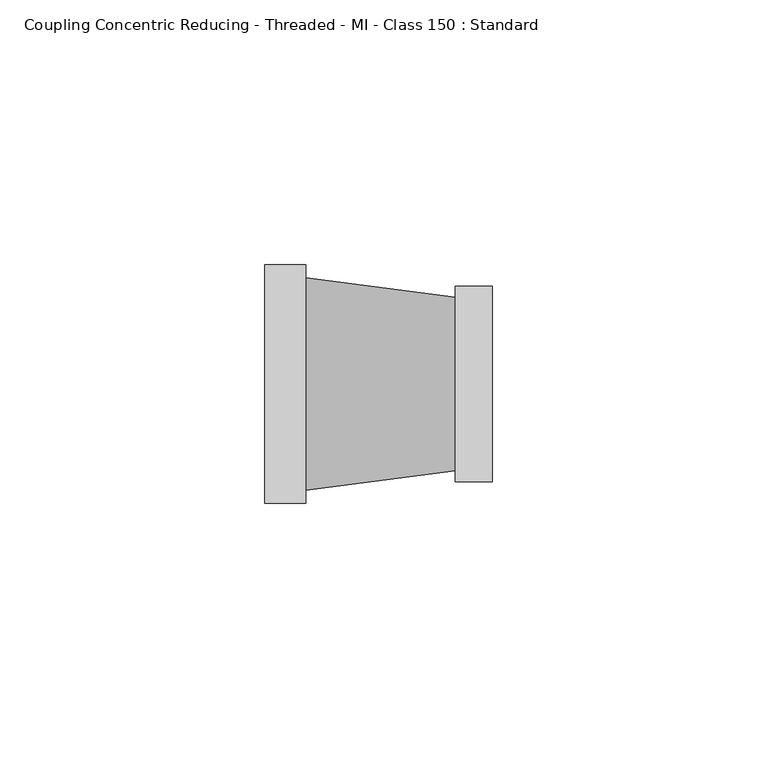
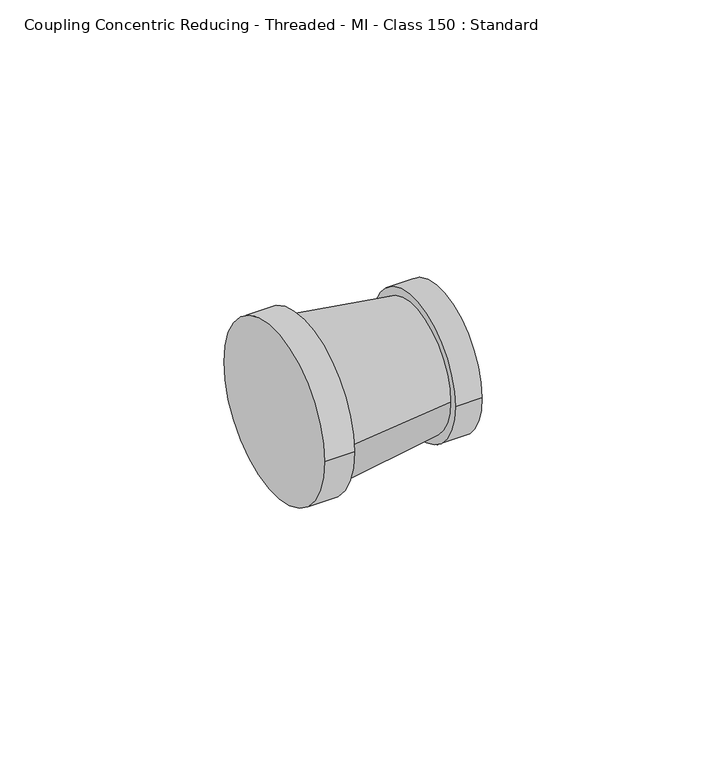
"""IFC4 building model written with IfcOpenShell, lengths in millimetres: pipe fitting geometry, Coupling Concentric Reducing - Threaded - MI - Class 150 : Standard."""

from ifc_helpers import new_model, si_unit, frame, origin, place, context, project, spatial, polyline, circle_curve, source, transform, mapped, element, save
from ifc_brep_helpers import plane_surface, cylinder_surface, revolved_surface, advanced_brep


def coupling_concentric_reducing_threaded_mi_class_150_standard_65733dbc(model_context):
    return source(origin(), model_context, "Body", "AdvancedBrep", [
        advanced_brep(
        [(7.7, 20.1, 0.0), (36.0, 16.4, 0.0), (36.0, -16.4, 0.0), (7.7, -20.1, 0.0), (42.9, -18.5, 0.0), (42.9, 18.5, 0.0), (36.0, -18.5, 0.0), (36.0, 18.5, 0.0), (7.7, -22.5, 0.0), (7.7, 22.5, 0.0), (0.0, -22.5, 0.0), (0.0, 22.5, 0.0)],
        [
            (0, 1),
            (1, 2, circle_curve(frame((36.0, 0.0, 0.0), z_axis=(-1.0, 0.0, 0.0), x_axis=(0.0, -1.0, 0.0)), 16.4)),
            (2, 3),
            (3, 0, circle_curve(frame((7.7, 0.0, 0.0), z_axis=(1.0, 0.0, 0.0), x_axis=(0.0, -1.0, 0.0)), 20.1)),
            (0, 3, circle_curve(frame((7.7, 0.0, 0.0), z_axis=(1.0, 0.0, 0.0), x_axis=(0.0, 1.0, 0.0)), 20.1)),
            (2, 1, circle_curve(frame((36.0, 0.0, 0.0), z_axis=(-1.0, 0.0, 0.0), x_axis=(0.0, 1.0, 0.0)), 16.4)),
            (4, 5, circle_curve(frame((42.9, 0.0, 0.0), z_axis=(1.0, 0.0, 0.0), x_axis=(0.0, 1.0, 0.0)), 18.5)),
            (5, 4, circle_curve(frame((42.9, 0.0, 0.0), z_axis=(1.0, 0.0, 0.0), x_axis=(0.0, 1.0, 0.0)), 18.5)),
            (6, 7, circle_curve(frame((36.0, 0.0, 0.0), z_axis=(-1.0, 0.0, 0.0), x_axis=(0.0, 1.0, 0.0)), 18.5)),
            (7, 6, circle_curve(frame((36.0, 0.0, 0.0), z_axis=(-1.0, 0.0, 0.0), x_axis=(0.0, 1.0, 0.0)), 18.5)),
            (4, 6),
            (7, 5),
            (8, 9, circle_curve(frame((7.7, 0.0, 0.0), z_axis=(1.0, 0.0, 0.0), x_axis=(0.0, 1.0, 0.0)), 22.5)),
            (9, 8, circle_curve(frame((7.7, 0.0, 0.0), z_axis=(1.0, 0.0, 0.0), x_axis=(0.0, 1.0, 0.0)), 22.5)),
            (10, 11, circle_curve(frame((0.0, 0.0, 0.0), z_axis=(-1.0, 0.0, 0.0), x_axis=(0.0, 1.0, 0.0)), 22.5)),
            (11, 10, circle_curve(frame((0.0, 0.0, 0.0), z_axis=(-1.0, 0.0, 0.0), x_axis=(0.0, 1.0, 0.0)), 22.5)),
            (8, 10),
            (11, 9),
        ],
        [
            revolved_surface(polyline([(36.0, 16.39999999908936, 0.0), (7.699999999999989, 20.1, 0.0)]), (161.4378378, 0.0, 0.0), (-1.0, 0.0, 0.0)),
            plane_surface(frame((42.9, 18.5, 0.0), z_axis=(1.0, 0.0, 0.0), x_axis=(0.0, 0.0, 1.0))),
            plane_surface(frame((36.0, 18.5, 0.0), z_axis=(-1.0, 0.0, 0.0), x_axis=(0.0, 0.0, -1.0))),
            cylinder_surface(frame((36.0, 0.0, 0.0), z_axis=(1.0, 0.0, 0.0), x_axis=(0.0, 1.0, 0.0)), 18.5),
            plane_surface(frame((7.7, 22.5, 0.0), z_axis=(1.0, 0.0, 0.0), x_axis=(0.0, 0.0, 1.0))),
            plane_surface(frame((0.0, 22.5, 0.0), z_axis=(-1.0, 0.0, 0.0), x_axis=(0.0, 0.0, -1.0))),
            cylinder_surface(frame((0.0, 0.0, 0.0), z_axis=(1.0, 0.0, 0.0), x_axis=(0.0, 1.0, 0.0)), 22.5),
        ],
        [
            (0, [[1, 2, 3, 4]]),
            (0, [[-1, 5, -3, 6]]),
            (1, [[7, 8]]),
            (2, [[9, 10], [-2, -6]]),
            (3, [[-7, 11, -10, 12]]),
            (3, [[-8, -12, -9, -11]]),
            (4, [[13, 14], [-4, -5]]),
            (5, [[15, 16]]),
            (6, [[-13, 17, -16, 18]]),
            (6, [[-14, -18, -15, -17]]),
        ],
    ),
    ])


if __name__ == "__main__":
    model = new_model("IFC4")
    model_context = context("Model", 3, world=origin())
    ifc_project = project(units=[si_unit("LENGTHUNIT", "METRE", prefix="MILLI")], contexts=[model_context])
    site = spatial("IfcSite", under=ifc_project)
    building = spatial("IfcBuilding", under=site)
    placement = place(None, origin())
    coupling_concentric_reducing_threaded_mi_class_150_standard_shape = coupling_concentric_reducing_threaded_mi_class_150_standard_65733dbc(model_context)
    element("IfcPipeFitting", 1, ObjectType="Coupling Concentric Reducing - Threaded - MI - Class 150 : Standard", at=placement, inside=building, context=model_context, shape_type="MappedRepresentation", body=[
        mapped(coupling_concentric_reducing_threaded_mi_class_150_standard_shape, transform((0.0, 0.0, 0.0), x_axis=(1.0, 0.0, 0.0), y_axis=(0.0, 1.0, 0.0), z_axis=(0.0, 0.0, 1.0))),
    ])
    save(model, "model.ifc")
